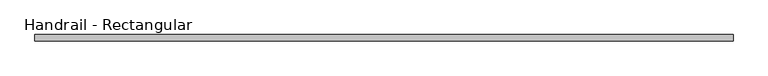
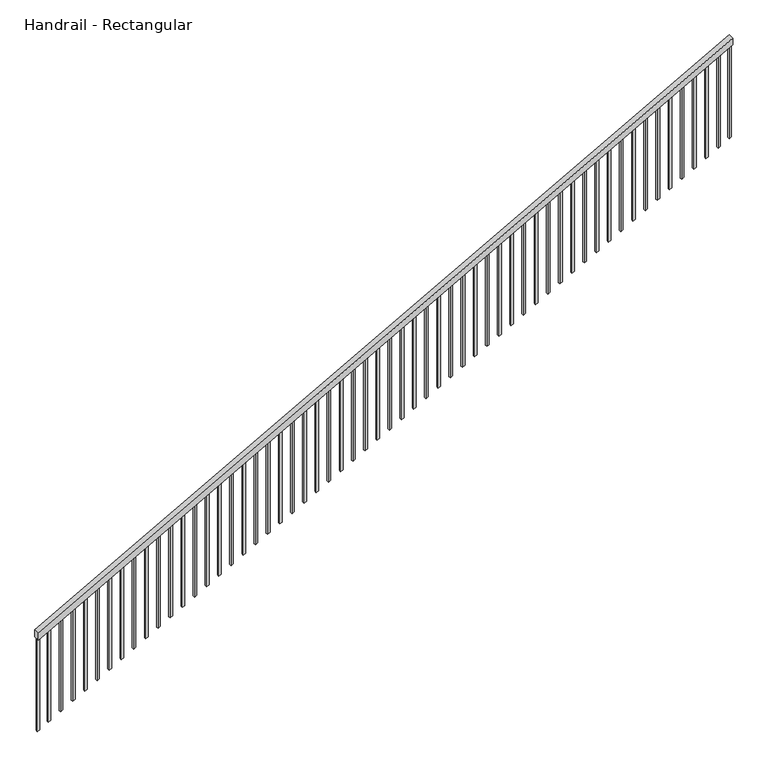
"""IFC4 building model written with IfcOpenShell, lengths in millimetres: railing geometry, Handrail - Rectangular."""

from ifc_helpers import new_model, si_unit, frame, origin, place, context, project, spatial, polyline, outline, extrude, source, transform, mapped, element, save


def handrail_rectangular_18279bd5(model_context):
    return source(origin(), model_context, "Body", "SweptSolid", [
        extrude(outline(polyline([(914.4, 87453.7114633), (856.2868876, 87453.7114633), (4073.620221, 93244.9114633), (4131.7333333, 93244.9114633), (914.4, 87453.7114633)])), frame((0.0, 3808.2984596, 0.0), z_axis=(0.0, 1.0, 0.0), x_axis=(0.0, 0.0, 1.0)), (0.0, 0.0, 1.0), 50.8),
        extrude(outline(polyline([(4022.4674432, 93152.8364633), (4011.8841099, 93133.7864633), (3193.8622837, 93133.7864633), (3204.445617, 93152.8364633), (4022.4674432, 93152.8364633)])), frame((0.0, 3824.1734596, 0.0), z_axis=(0.0, 1.0, 0.0), x_axis=(0.0, 0.0, 1.0)), (0.0, 0.0, 1.0), 19.05),
        extrude(outline(polyline([(3966.0229988, 93051.2364633), (3955.4396654, 93032.1864633), (3137.4178392, 93032.1864633), (3148.0011726, 93051.2364633), (3966.0229988, 93051.2364633)])), frame((0.0, 3824.1734596, 0.0), z_axis=(0.0, 1.0, 0.0), x_axis=(0.0, 0.0, 1.0)), (0.0, 0.0, 1.0), 19.05),
        extrude(outline(polyline([(3909.5785543, 92949.6364633), (3898.995221, 92930.5864633), (3080.9733948, 92930.5864633), (3091.5567281, 92949.6364633), (3909.5785543, 92949.6364633)])), frame((0.0, 3824.1734596, 0.0), z_axis=(0.0, 1.0, 0.0), x_axis=(0.0, 0.0, 1.0)), (0.0, 0.0, 1.0), 19.05),
        extrude(outline(polyline([(3853.1341099, 92848.0364633), (3842.5507765, 92828.9864633), (3024.5289503, 92828.9864633), (3035.1122837, 92848.0364633), (3853.1341099, 92848.0364633)])), frame((0.0, 3824.1734596, 0.0), z_axis=(0.0, 1.0, 0.0), x_axis=(0.0, 0.0, 1.0)), (0.0, 0.0, 1.0), 19.05),
        extrude(outline(polyline([(3796.6896654, 92746.4364633), (3786.1063321, 92727.3864633), (2968.0845059, 92727.3864633), (2978.6678392, 92746.4364633), (3796.6896654, 92746.4364633)])), frame((0.0, 3824.1734596, 0.0), z_axis=(0.0, 1.0, 0.0), x_axis=(0.0, 0.0, 1.0)), (0.0, 0.0, 1.0), 19.05),
        extrude(outline(polyline([(3740.245221, 92644.8364633), (3729.6618876, 92625.7864633), (2911.6400614, 92625.7864633), (2922.2233948, 92644.8364633), (3740.245221, 92644.8364633)])), frame((0.0, 3824.1734596, 0.0), z_axis=(0.0, 1.0, 0.0), x_axis=(0.0, 0.0, 1.0)), (0.0, 0.0, 1.0), 19.05),
        extrude(outline(polyline([(3683.8007765, 92543.2364633), (3673.2174432, 92524.1864633), (2855.195617, 92524.1864633), (2865.7789503, 92543.2364633), (3683.8007765, 92543.2364633)])), frame((0.0, 3824.1734596, 0.0), z_axis=(0.0, 1.0, 0.0), x_axis=(0.0, 0.0, 1.0)), (0.0, 0.0, 1.0), 19.05),
        extrude(outline(polyline([(3627.3563321, 92441.6364633), (3616.7729988, 92422.5864633), (2798.7511726, 92422.5864633), (2809.3345059, 92441.6364633), (3627.3563321, 92441.6364633)])), frame((0.0, 3824.1734596, 0.0), z_axis=(0.0, 1.0, 0.0), x_axis=(0.0, 0.0, 1.0)), (0.0, 0.0, 1.0), 19.05),
        extrude(outline(polyline([(3570.9118876, 92340.0364633), (3560.3285543, 92320.9864633), (2742.3067281, 92320.9864633), (2752.8900614, 92340.0364633), (3570.9118876, 92340.0364633)])), frame((0.0, 3824.1734596, 0.0), z_axis=(0.0, 1.0, 0.0), x_axis=(0.0, 0.0, 1.0)), (0.0, 0.0, 1.0), 19.05),
        extrude(outline(polyline([(3514.4674432, 92238.4364633), (3503.8841099, 92219.3864633), (2685.8622837, 92219.3864633), (2696.445617, 92238.4364633), (3514.4674432, 92238.4364633)])), frame((0.0, 3824.1734596, 0.0), z_axis=(0.0, 1.0, 0.0), x_axis=(0.0, 0.0, 1.0)), (0.0, 0.0, 1.0), 19.05),
        extrude(outline(polyline([(3458.0229988, 92136.8364633), (3447.4396654, 92117.7864633), (2629.4178392, 92117.7864633), (2640.0011726, 92136.8364633), (3458.0229988, 92136.8364633)])), frame((0.0, 3824.1734596, 0.0), z_axis=(0.0, 1.0, 0.0), x_axis=(0.0, 0.0, 1.0)), (0.0, 0.0, 1.0), 19.05),
        extrude(outline(polyline([(3401.5785543, 92035.2364633), (3390.995221, 92016.1864633), (2572.9733948, 92016.1864633), (2583.5567281, 92035.2364633), (3401.5785543, 92035.2364633)])), frame((0.0, 3824.1734596, 0.0), z_axis=(0.0, 1.0, 0.0), x_axis=(0.0, 0.0, 1.0)), (0.0, 0.0, 1.0), 19.05),
        extrude(outline(polyline([(3345.1341099, 91933.6364633), (3334.5507765, 91914.5864633), (2516.5289503, 91914.5864633), (2527.1122837, 91933.6364633), (3345.1341099, 91933.6364633)])), frame((0.0, 3824.1734596, 0.0), z_axis=(0.0, 1.0, 0.0), x_axis=(0.0, 0.0, 1.0)), (0.0, 0.0, 1.0), 19.05),
        extrude(outline(polyline([(3288.6896654, 91832.0364633), (3278.1063321, 91812.9864633), (2460.0845059, 91812.9864633), (2470.6678392, 91832.0364633), (3288.6896654, 91832.0364633)])), frame((0.0, 3824.1734596, 0.0), z_axis=(0.0, 1.0, 0.0), x_axis=(0.0, 0.0, 1.0)), (0.0, 0.0, 1.0), 19.05),
        extrude(outline(polyline([(3232.245221, 91730.4364633), (3221.6618876, 91711.3864633), (2403.6400614, 91711.3864633), (2414.2233948, 91730.4364633), (3232.245221, 91730.4364633)])), frame((0.0, 3824.1734596, 0.0), z_axis=(0.0, 1.0, 0.0), x_axis=(0.0, 0.0, 1.0)), (0.0, 0.0, 1.0), 19.05),
        extrude(outline(polyline([(3175.8007765, 91628.8364633), (3165.2174432, 91609.7864633), (2347.195617, 91609.7864633), (2357.7789503, 91628.8364633), (3175.8007765, 91628.8364633)])), frame((0.0, 3824.1734596, 0.0), z_axis=(0.0, 1.0, 0.0), x_axis=(0.0, 0.0, 1.0)), (0.0, 0.0, 1.0), 19.05),
        extrude(outline(polyline([(3119.3563321, 91527.2364633), (3108.7729988, 91508.1864633), (2290.7511726, 91508.1864633), (2301.3345059, 91527.2364633), (3119.3563321, 91527.2364633)])), frame((0.0, 3824.1734596, 0.0), z_axis=(0.0, 1.0, 0.0), x_axis=(0.0, 0.0, 1.0)), (0.0, 0.0, 1.0), 19.05),
        extrude(outline(polyline([(3062.9118876, 91425.6364633), (3052.3285543, 91406.5864633), (2234.3067281, 91406.5864633), (2244.8900614, 91425.6364633), (3062.9118876, 91425.6364633)])), frame((0.0, 3824.1734596, 0.0), z_axis=(0.0, 1.0, 0.0), x_axis=(0.0, 0.0, 1.0)), (0.0, 0.0, 1.0), 19.05),
        extrude(outline(polyline([(3006.4674432, 91324.0364633), (2995.8841099, 91304.9864633), (2177.8622837, 91304.9864633), (2188.445617, 91324.0364633), (3006.4674432, 91324.0364633)])), frame((0.0, 3824.1734596, 0.0), z_axis=(0.0, 1.0, 0.0), x_axis=(0.0, 0.0, 1.0)), (0.0, 0.0, 1.0), 19.05),
        extrude(outline(polyline([(2950.0229988, 91222.4364633), (2939.4396654, 91203.3864633), (2121.4178392, 91203.3864633), (2132.0011726, 91222.4364633), (2950.0229988, 91222.4364633)])), frame((0.0, 3824.1734596, 0.0), z_axis=(0.0, 1.0, 0.0), x_axis=(0.0, 0.0, 1.0)), (0.0, 0.0, 1.0), 19.05),
        extrude(outline(polyline([(2893.5785543, 91120.8364633), (2882.995221, 91101.7864633), (2064.9733948, 91101.7864633), (2075.5567281, 91120.8364633), (2893.5785543, 91120.8364633)])), frame((0.0, 3824.1734596, 0.0), z_axis=(0.0, 1.0, 0.0), x_axis=(0.0, 0.0, 1.0)), (0.0, 0.0, 1.0), 19.05),
        extrude(outline(polyline([(2837.1341099, 91019.2364633), (2826.5507765, 91000.1864633), (2008.5289503, 91000.1864633), (2019.1122837, 91019.2364633), (2837.1341099, 91019.2364633)])), frame((0.0, 3824.1734596, 0.0), z_axis=(0.0, 1.0, 0.0), x_axis=(0.0, 0.0, 1.0)), (0.0, 0.0, 1.0), 19.05),
        extrude(outline(polyline([(2780.6896654, 90917.6364633), (2770.1063321, 90898.5864633), (1952.0845059, 90898.5864633), (1962.6678392, 90917.6364633), (2780.6896654, 90917.6364633)])), frame((0.0, 3824.1734596, 0.0), z_axis=(0.0, 1.0, 0.0), x_axis=(0.0, 0.0, 1.0)), (0.0, 0.0, 1.0), 19.05),
        extrude(outline(polyline([(2724.245221, 90816.0364633), (2713.6618876, 90796.9864633), (1895.6400614, 90796.9864633), (1906.2233948, 90816.0364633), (2724.245221, 90816.0364633)])), frame((0.0, 3824.1734596, 0.0), z_axis=(0.0, 1.0, 0.0), x_axis=(0.0, 0.0, 1.0)), (0.0, 0.0, 1.0), 19.05),
        extrude(outline(polyline([(2667.8007765, 90714.4364633), (2657.2174432, 90695.3864633), (1839.195617, 90695.3864633), (1849.7789503, 90714.4364633), (2667.8007765, 90714.4364633)])), frame((0.0, 3824.1734596, 0.0), z_axis=(0.0, 1.0, 0.0), x_axis=(0.0, 0.0, 1.0)), (0.0, 0.0, 1.0), 19.05),
        extrude(outline(polyline([(2611.3563321, 90612.8364633), (2600.7729988, 90593.7864633), (1782.7511726, 90593.7864633), (1793.3345059, 90612.8364633), (2611.3563321, 90612.8364633)])), frame((0.0, 3824.1734596, 0.0), z_axis=(0.0, 1.0, 0.0), x_axis=(0.0, 0.0, 1.0)), (0.0, 0.0, 1.0), 19.05),
        extrude(outline(polyline([(2554.9118876, 90511.2364633), (2544.3285543, 90492.1864633), (1726.3067281, 90492.1864633), (1736.8900614, 90511.2364633), (2554.9118876, 90511.2364633)])), frame((0.0, 3824.1734596, 0.0), z_axis=(0.0, 1.0, 0.0), x_axis=(0.0, 0.0, 1.0)), (0.0, 0.0, 1.0), 19.05),
        extrude(outline(polyline([(2498.4674432, 90409.6364633), (2487.8841099, 90390.5864633), (1669.8622837, 90390.5864633), (1680.445617, 90409.6364633), (2498.4674432, 90409.6364633)])), frame((0.0, 3824.1734596, 0.0), z_axis=(0.0, 1.0, 0.0), x_axis=(0.0, 0.0, 1.0)), (0.0, 0.0, 1.0), 19.05),
        extrude(outline(polyline([(2442.0229988, 90308.0364633), (2431.4396654, 90288.9864633), (1613.4178392, 90288.9864633), (1624.0011726, 90308.0364633), (2442.0229988, 90308.0364633)])), frame((0.0, 3824.1734596, 0.0), z_axis=(0.0, 1.0, 0.0), x_axis=(0.0, 0.0, 1.0)), (0.0, 0.0, 1.0), 19.05),
        extrude(outline(polyline([(2385.5785543, 90206.4364633), (2374.995221, 90187.3864633), (1556.9733948, 90187.3864633), (1567.5567281, 90206.4364633), (2385.5785543, 90206.4364633)])), frame((0.0, 3824.1734596, 0.0), z_axis=(0.0, 1.0, 0.0), x_axis=(0.0, 0.0, 1.0)), (0.0, 0.0, 1.0), 19.05),
        extrude(outline(polyline([(2329.1341099, 90104.8364633), (2318.5507765, 90085.7864633), (1500.5289503, 90085.7864633), (1511.1122837, 90104.8364633), (2329.1341099, 90104.8364633)])), frame((0.0, 3824.1734596, 0.0), z_axis=(0.0, 1.0, 0.0), x_axis=(0.0, 0.0, 1.0)), (0.0, 0.0, 1.0), 19.05),
        extrude(outline(polyline([(2272.6896654, 90003.2364633), (2262.1063321, 89984.1864633), (1444.0845059, 89984.1864633), (1454.6678392, 90003.2364633), (2272.6896654, 90003.2364633)])), frame((0.0, 3824.1734596, 0.0), z_axis=(0.0, 1.0, 0.0), x_axis=(0.0, 0.0, 1.0)), (0.0, 0.0, 1.0), 19.05),
        extrude(outline(polyline([(2216.245221, 89901.6364633), (2205.6618876, 89882.5864633), (1387.6400614, 89882.5864633), (1398.2233948, 89901.6364633), (2216.245221, 89901.6364633)])), frame((0.0, 3824.1734596, 0.0), z_axis=(0.0, 1.0, 0.0), x_axis=(0.0, 0.0, 1.0)), (0.0, 0.0, 1.0), 19.05),
        extrude(outline(polyline([(2159.8007765, 89800.0364633), (2149.2174432, 89780.9864633), (1331.195617, 89780.9864633), (1341.7789503, 89800.0364633), (2159.8007765, 89800.0364633)])), frame((0.0, 3824.1734596, 0.0), z_axis=(0.0, 1.0, 0.0), x_axis=(0.0, 0.0, 1.0)), (0.0, 0.0, 1.0), 19.05),
        extrude(outline(polyline([(2103.3563321, 89698.4364633), (2092.7729988, 89679.3864633), (1274.7511726, 89679.3864633), (1285.3345059, 89698.4364633), (2103.3563321, 89698.4364633)])), frame((0.0, 3824.1734596, 0.0), z_axis=(0.0, 1.0, 0.0), x_axis=(0.0, 0.0, 1.0)), (0.0, 0.0, 1.0), 19.05),
        extrude(outline(polyline([(2046.9118876, 89596.8364633), (2036.3285543, 89577.7864633), (1218.3067281, 89577.7864633), (1228.8900614, 89596.8364633), (2046.9118876, 89596.8364633)])), frame((0.0, 3824.1734596, 0.0), z_axis=(0.0, 1.0, 0.0), x_axis=(0.0, 0.0, 1.0)), (0.0, 0.0, 1.0), 19.05),
        extrude(outline(polyline([(1990.4674432, 89495.2364633), (1979.8841099, 89476.1864633), (1161.8622837, 89476.1864633), (1172.445617, 89495.2364633), (1990.4674432, 89495.2364633)])), frame((0.0, 3824.1734596, 0.0), z_axis=(0.0, 1.0, 0.0), x_axis=(0.0, 0.0, 1.0)), (0.0, 0.0, 1.0), 19.05),
        extrude(outline(polyline([(1934.0229988, 89393.6364633), (1923.4396654, 89374.5864633), (1105.4178392, 89374.5864633), (1116.0011726, 89393.6364633), (1934.0229988, 89393.6364633)])), frame((0.0, 3824.1734596, 0.0), z_axis=(0.0, 1.0, 0.0), x_axis=(0.0, 0.0, 1.0)), (0.0, 0.0, 1.0), 19.05),
        extrude(outline(polyline([(1877.5785543, 89292.0364633), (1866.995221, 89272.9864633), (1048.9733948, 89272.9864633), (1059.5567281, 89292.0364633), (1877.5785543, 89292.0364633)])), frame((0.0, 3824.1734596, 0.0), z_axis=(0.0, 1.0, 0.0), x_axis=(0.0, 0.0, 1.0)), (0.0, 0.0, 1.0), 19.05),
        extrude(outline(polyline([(1821.1341099, 89190.4364633), (1810.5507765, 89171.3864633), (992.5289503, 89171.3864633), (1003.1122837, 89190.4364633), (1821.1341099, 89190.4364633)])), frame((0.0, 3824.1734596, 0.0), z_axis=(0.0, 1.0, 0.0), x_axis=(0.0, 0.0, 1.0)), (0.0, 0.0, 1.0), 19.05),
        extrude(outline(polyline([(1764.6896654, 89088.8364633), (1754.1063321, 89069.7864633), (936.0845059, 89069.7864633), (946.6678392, 89088.8364633), (1764.6896654, 89088.8364633)])), frame((0.0, 3824.1734596, 0.0), z_axis=(0.0, 1.0, 0.0), x_axis=(0.0, 0.0, 1.0)), (0.0, 0.0, 1.0), 19.05),
        extrude(outline(polyline([(1708.245221, 88987.2364633), (1697.6618876, 88968.1864633), (879.6400614, 88968.1864633), (890.2233948, 88987.2364633), (1708.245221, 88987.2364633)])), frame((0.0, 3824.1734596, 0.0), z_axis=(0.0, 1.0, 0.0), x_axis=(0.0, 0.0, 1.0)), (0.0, 0.0, 1.0), 19.05),
        extrude(outline(polyline([(1651.8007765, 88885.6364633), (1641.2174432, 88866.5864633), (823.195617, 88866.5864633), (833.7789503, 88885.6364633), (1651.8007765, 88885.6364633)])), frame((0.0, 3824.1734596, 0.0), z_axis=(0.0, 1.0, 0.0), x_axis=(0.0, 0.0, 1.0)), (0.0, 0.0, 1.0), 19.05),
        extrude(outline(polyline([(1595.3563321, 88784.0364633), (1584.7729988, 88764.9864633), (766.7511726, 88764.9864633), (777.3345059, 88784.0364633), (1595.3563321, 88784.0364633)])), frame((0.0, 3824.1734596, 0.0), z_axis=(0.0, 1.0, 0.0), x_axis=(0.0, 0.0, 1.0)), (0.0, 0.0, 1.0), 19.05),
        extrude(outline(polyline([(1538.9118876, 88682.4364633), (1528.3285543, 88663.3864633), (710.3067281, 88663.3864633), (720.8900614, 88682.4364633), (1538.9118876, 88682.4364633)])), frame((0.0, 3824.1734596, 0.0), z_axis=(0.0, 1.0, 0.0), x_axis=(0.0, 0.0, 1.0)), (0.0, 0.0, 1.0), 19.05),
        extrude(outline(polyline([(1482.4674432, 88580.8364633), (1471.8841099, 88561.7864633), (653.8622837, 88561.7864633), (664.445617, 88580.8364633), (1482.4674432, 88580.8364633)])), frame((0.0, 3824.1734596, 0.0), z_axis=(0.0, 1.0, 0.0), x_axis=(0.0, 0.0, 1.0)), (0.0, 0.0, 1.0), 19.05),
        extrude(outline(polyline([(1426.0229988, 88479.2364633), (1415.4396654, 88460.1864633), (597.4178392, 88460.1864633), (608.0011726, 88479.2364633), (1426.0229988, 88479.2364633)])), frame((0.0, 3824.1734596, 0.0), z_axis=(0.0, 1.0, 0.0), x_axis=(0.0, 0.0, 1.0)), (0.0, 0.0, 1.0), 19.05),
        extrude(outline(polyline([(1369.5785543, 88377.6364633), (1358.995221, 88358.5864633), (540.9733948, 88358.5864633), (551.5567281, 88377.6364633), (1369.5785543, 88377.6364633)])), frame((0.0, 3824.1734596, 0.0), z_axis=(0.0, 1.0, 0.0), x_axis=(0.0, 0.0, 1.0)), (0.0, 0.0, 1.0), 19.05),
        extrude(outline(polyline([(1313.1341099, 88276.0364633), (1302.5507765, 88256.9864633), (484.5289503, 88256.9864633), (495.1122837, 88276.0364633), (1313.1341099, 88276.0364633)])), frame((0.0, 3824.1734596, 0.0), z_axis=(0.0, 1.0, 0.0), x_axis=(0.0, 0.0, 1.0)), (0.0, 0.0, 1.0), 19.05),
        extrude(outline(polyline([(1256.6896654, 88174.4364633), (1246.1063321, 88155.3864633), (428.0845059, 88155.3864633), (438.6678392, 88174.4364633), (1256.6896654, 88174.4364633)])), frame((0.0, 3824.1734596, 0.0), z_axis=(0.0, 1.0, 0.0), x_axis=(0.0, 0.0, 1.0)), (0.0, 0.0, 1.0), 19.05),
        extrude(outline(polyline([(1200.245221, 88072.8364633), (1189.6618876, 88053.7864633), (371.6400614, 88053.7864633), (382.2233948, 88072.8364633), (1200.245221, 88072.8364633)])), frame((0.0, 3824.1734596, 0.0), z_axis=(0.0, 1.0, 0.0), x_axis=(0.0, 0.0, 1.0)), (0.0, 0.0, 1.0), 19.05),
        extrude(outline(polyline([(1143.8007765, 87971.2364633), (1133.2174432, 87952.1864633), (315.195617, 87952.1864633), (325.7789503, 87971.2364633), (1143.8007765, 87971.2364633)])), frame((0.0, 3824.1734596, 0.0), z_axis=(0.0, 1.0, 0.0), x_axis=(0.0, 0.0, 1.0)), (0.0, 0.0, 1.0), 19.05),
        extrude(outline(polyline([(1087.3563321, 87869.6364633), (1076.7729988, 87850.5864633), (258.7511726, 87850.5864633), (269.3345059, 87869.6364633), (1087.3563321, 87869.6364633)])), frame((0.0, 3824.1734596, 0.0), z_axis=(0.0, 1.0, 0.0), x_axis=(0.0, 0.0, 1.0)), (0.0, 0.0, 1.0), 19.05),
        extrude(outline(polyline([(1030.9118876, 87768.0364633), (1020.3285543, 87748.9864633), (202.3067281, 87748.9864633), (212.8900614, 87768.0364633), (1030.9118876, 87768.0364633)])), frame((0.0, 3824.1734596, 0.0), z_axis=(0.0, 1.0, 0.0), x_axis=(0.0, 0.0, 1.0)), (0.0, 0.0, 1.0), 19.05),
        extrude(outline(polyline([(974.4674432, 87666.4364633), (963.8841099, 87647.3864633), (145.8622837, 87647.3864633), (156.445617, 87666.4364633), (974.4674432, 87666.4364633)])), frame((0.0, 3824.1734596, 0.0), z_axis=(0.0, 1.0, 0.0), x_axis=(0.0, 0.0, 1.0)), (0.0, 0.0, 1.0), 19.05),
        extrude(outline(polyline([(918.0229988, 87564.8364633), (907.4396654, 87545.7864633), (89.4178392, 87545.7864633), (100.0011726, 87564.8364633), (918.0229988, 87564.8364633)])), frame((0.0, 3824.1734596, 0.0), z_axis=(0.0, 1.0, 0.0), x_axis=(0.0, 0.0, 1.0)), (0.0, 0.0, 1.0), 19.05),
        extrude(outline(polyline([(4073.620221, 93244.9114633), (4063.0368876, 93225.8614633), (3245.0150614, 93225.8614633), (3255.5983948, 93244.9114633), (4073.620221, 93244.9114633)])), frame((0.0, 3824.1734596, 0.0), z_axis=(0.0, 1.0, 0.0), x_axis=(0.0, 0.0, 1.0)), (0.0, 0.0, 1.0), 19.05),
        extrude(outline(polyline([(866.870221, 87472.7614633), (856.2868876, 87453.7114633), (38.2650614, 87453.7114633), (48.8483948, 87472.7614633), (866.870221, 87472.7614633)])), frame((0.0, 3824.1734596, 0.0), z_axis=(0.0, 1.0, 0.0), x_axis=(0.0, 0.0, 1.0)), (0.0, 0.0, 1.0), 19.05),
    ])


if __name__ == "__main__":
    model = new_model("IFC4")
    model_context = context("Model", 3, world=origin())
    ifc_project = project(units=[si_unit("LENGTHUNIT", "METRE", prefix="MILLI")], contexts=[model_context])
    site = spatial("IfcSite", under=ifc_project)
    building = spatial("IfcBuilding", under=site)
    placement = place(None, origin())
    handrail_rectangular_shape = handrail_rectangular_18279bd5(model_context)
    element("IfcRailing", 1, ObjectType="Handrail - Rectangular", at=placement, inside=building, context=model_context, shape_type="MappedRepresentation", body=[
        mapped(handrail_rectangular_shape, transform((0.0, 0.0, 0.0), x_axis=(1.0, 0.0, 0.0), y_axis=(0.0, 1.0, 0.0), z_axis=(0.0, 0.0, 1.0))),
    ])
    save(model, "model.ifc")
